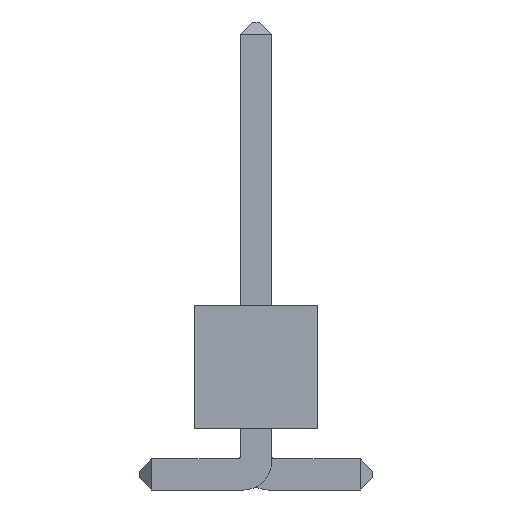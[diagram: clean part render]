
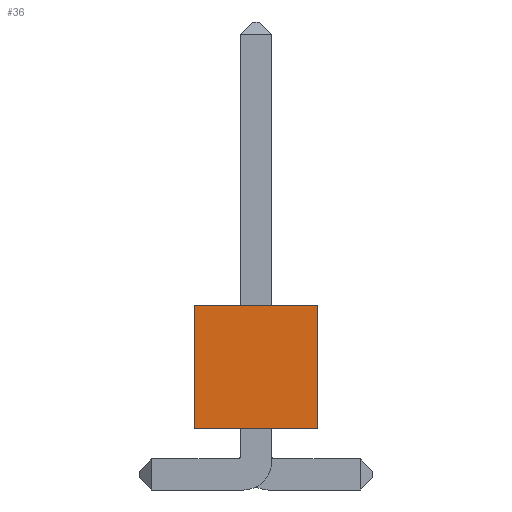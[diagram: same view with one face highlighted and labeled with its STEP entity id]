
A CAD part, left-side view. The second image highlights one B-rep face of the part: STEP entity #36.
In plain terms, the highlighted planar face has unit normal (-1, 0, 0).
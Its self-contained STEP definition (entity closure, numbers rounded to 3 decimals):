
#36 = ADVANCED_FACE('',(#37),#51,.F.);
#37 = FACE_BOUND('',#38,.F.);
#38 = EDGE_LOOP('',(#39,#74,#102,#130));
#39 = ORIENTED_EDGE('',*,*,#40,.F.);
#40 = EDGE_CURVE('',#41,#43,#45,.T.);
#41 = VERTEX_POINT('',#42);
#42 = CARTESIAN_POINT('',(-17.78,-1.27,1.27));
#43 = VERTEX_POINT('',#44);
#44 = CARTESIAN_POINT('',(-17.78,-1.27,3.81));
#45 = SURFACE_CURVE('',#46,(#50,#62),.PCURVE_S1.);
#46 = LINE('',#47,#48);
#47 = CARTESIAN_POINT('',(-17.78,-1.27,1.27));
#48 = VECTOR('',#49,1.);
#49 = DIRECTION('',(0.,0.,1.));
#50 = PCURVE('',#51,#56);
#51 = PLANE('',#52);
#52 = AXIS2_PLACEMENT_3D('',#53,#54,#55);
#53 = CARTESIAN_POINT('',(-17.78,-1.27,1.27));
#54 = DIRECTION('',(1.,0.,0.));
#55 = DIRECTION('',(0.,0.,1.));
#56 = DEFINITIONAL_REPRESENTATION('',(#57),#61);
#57 = LINE('',#58,#59);
#58 = CARTESIAN_POINT('',(0.,0.));
#59 = VECTOR('',#60,1.);
#60 = DIRECTION('',(1.,0.));
#61 = ( GEOMETRIC_REPRESENTATION_CONTEXT(2) 
PARAMETRIC_REPRESENTATION_CONTEXT() REPRESENTATION_CONTEXT('2D SPACE',''
  ) );
#62 = PCURVE('',#63,#68);
#63 = PLANE('',#64);
#64 = AXIS2_PLACEMENT_3D('',#65,#66,#67);
#65 = CARTESIAN_POINT('',(-17.78,-1.27,1.27));
#66 = DIRECTION('',(0.,1.,0.));
#67 = DIRECTION('',(0.,0.,1.));
#68 = DEFINITIONAL_REPRESENTATION('',(#69),#73);
#69 = LINE('',#70,#71);
#70 = CARTESIAN_POINT('',(0.,0.));
#71 = VECTOR('',#72,1.);
#72 = DIRECTION('',(1.,0.));
#73 = ( GEOMETRIC_REPRESENTATION_CONTEXT(2) 
PARAMETRIC_REPRESENTATION_CONTEXT() REPRESENTATION_CONTEXT('2D SPACE',''
  ) );
#74 = ORIENTED_EDGE('',*,*,#75,.T.);
#75 = EDGE_CURVE('',#41,#76,#78,.T.);
#76 = VERTEX_POINT('',#77);
#77 = CARTESIAN_POINT('',(-17.78,1.27,1.27));
#78 = SURFACE_CURVE('',#79,(#83,#90),.PCURVE_S1.);
#79 = LINE('',#80,#81);
#80 = CARTESIAN_POINT('',(-17.78,-1.27,1.27));
#81 = VECTOR('',#82,1.);
#82 = DIRECTION('',(0.,1.,0.));
#83 = PCURVE('',#51,#84);
#84 = DEFINITIONAL_REPRESENTATION('',(#85),#89);
#85 = LINE('',#86,#87);
#86 = CARTESIAN_POINT('',(0.,0.));
#87 = VECTOR('',#88,1.);
#88 = DIRECTION('',(0.,-1.));
#89 = ( GEOMETRIC_REPRESENTATION_CONTEXT(2) 
PARAMETRIC_REPRESENTATION_CONTEXT() REPRESENTATION_CONTEXT('2D SPACE',''
  ) );
#90 = PCURVE('',#91,#96);
#91 = PLANE('',#92);
#92 = AXIS2_PLACEMENT_3D('',#93,#94,#95);
#93 = CARTESIAN_POINT('',(-17.78,-1.27,1.27));
#94 = DIRECTION('',(0.,0.,1.));
#95 = DIRECTION('',(1.,0.,0.));
#96 = DEFINITIONAL_REPRESENTATION('',(#97),#101);
#97 = LINE('',#98,#99);
#98 = CARTESIAN_POINT('',(0.,0.));
#99 = VECTOR('',#100,1.);
#100 = DIRECTION('',(0.,1.));
#101 = ( GEOMETRIC_REPRESENTATION_CONTEXT(2) 
PARAMETRIC_REPRESENTATION_CONTEXT() REPRESENTATION_CONTEXT('2D SPACE',''
  ) );
#102 = ORIENTED_EDGE('',*,*,#103,.T.);
#103 = EDGE_CURVE('',#76,#104,#106,.T.);
#104 = VERTEX_POINT('',#105);
#105 = CARTESIAN_POINT('',(-17.78,1.27,3.81));
#106 = SURFACE_CURVE('',#107,(#111,#118),.PCURVE_S1.);
#107 = LINE('',#108,#109);
#108 = CARTESIAN_POINT('',(-17.78,1.27,1.27));
#109 = VECTOR('',#110,1.);
#110 = DIRECTION('',(0.,0.,1.));
#111 = PCURVE('',#51,#112);
#112 = DEFINITIONAL_REPRESENTATION('',(#113),#117);
#113 = LINE('',#114,#115);
#114 = CARTESIAN_POINT('',(0.,-2.54));
#115 = VECTOR('',#116,1.);
#116 = DIRECTION('',(1.,0.));
#117 = ( GEOMETRIC_REPRESENTATION_CONTEXT(2) 
PARAMETRIC_REPRESENTATION_CONTEXT() REPRESENTATION_CONTEXT('2D SPACE',''
  ) );
#118 = PCURVE('',#119,#124);
#119 = PLANE('',#120);
#120 = AXIS2_PLACEMENT_3D('',#121,#122,#123);
#121 = CARTESIAN_POINT('',(-17.78,1.27,1.27));
#122 = DIRECTION('',(0.,1.,0.));
#123 = DIRECTION('',(0.,0.,1.));
#124 = DEFINITIONAL_REPRESENTATION('',(#125),#129);
#125 = LINE('',#126,#127);
#126 = CARTESIAN_POINT('',(0.,0.));
#127 = VECTOR('',#128,1.);
#128 = DIRECTION('',(1.,0.));
#129 = ( GEOMETRIC_REPRESENTATION_CONTEXT(2) 
PARAMETRIC_REPRESENTATION_CONTEXT() REPRESENTATION_CONTEXT('2D SPACE',''
  ) );
#130 = ORIENTED_EDGE('',*,*,#131,.F.);
#131 = EDGE_CURVE('',#43,#104,#132,.T.);
#132 = SURFACE_CURVE('',#133,(#137,#144),.PCURVE_S1.);
#133 = LINE('',#134,#135);
#134 = CARTESIAN_POINT('',(-17.78,-1.27,3.81));
#135 = VECTOR('',#136,1.);
#136 = DIRECTION('',(0.,1.,0.));
#137 = PCURVE('',#51,#138);
#138 = DEFINITIONAL_REPRESENTATION('',(#139),#143);
#139 = LINE('',#140,#141);
#140 = CARTESIAN_POINT('',(2.54,0.));
#141 = VECTOR('',#142,1.);
#142 = DIRECTION('',(0.,-1.));
#143 = ( GEOMETRIC_REPRESENTATION_CONTEXT(2) 
PARAMETRIC_REPRESENTATION_CONTEXT() REPRESENTATION_CONTEXT('2D SPACE',''
  ) );
#144 = PCURVE('',#145,#150);
#145 = PLANE('',#146);
#146 = AXIS2_PLACEMENT_3D('',#147,#148,#149);
#147 = CARTESIAN_POINT('',(-17.78,-1.27,3.81));
#148 = DIRECTION('',(0.,0.,1.));
#149 = DIRECTION('',(1.,0.,0.));
#150 = DEFINITIONAL_REPRESENTATION('',(#151),#155);
#151 = LINE('',#152,#153);
#152 = CARTESIAN_POINT('',(0.,0.));
#153 = VECTOR('',#154,1.);
#154 = DIRECTION('',(0.,1.));
#155 = ( GEOMETRIC_REPRESENTATION_CONTEXT(2) 
PARAMETRIC_REPRESENTATION_CONTEXT() REPRESENTATION_CONTEXT('2D SPACE',''
  ) );
